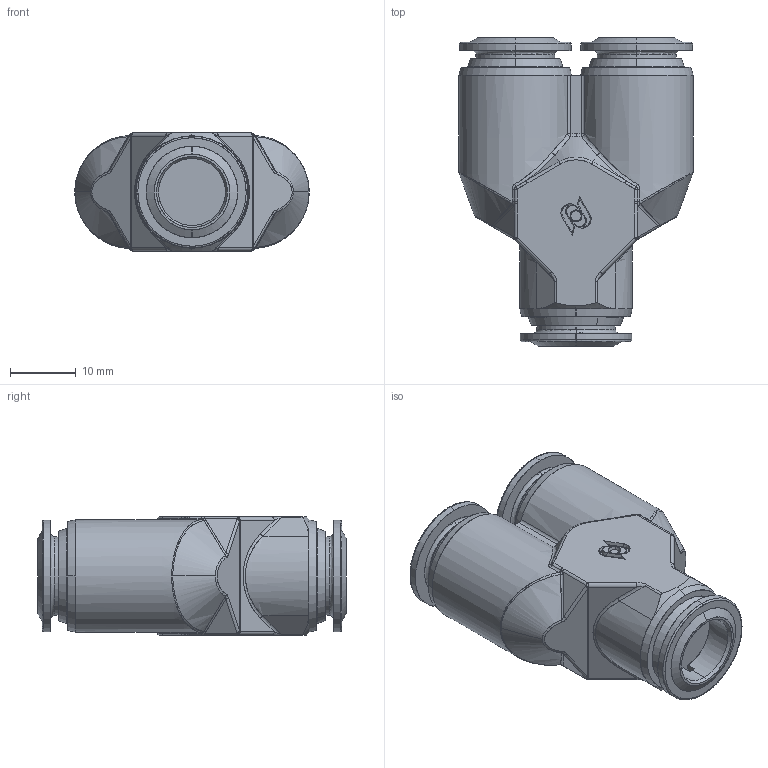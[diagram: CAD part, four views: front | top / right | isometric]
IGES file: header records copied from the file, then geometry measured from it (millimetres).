
Start section: SolidWorks IGES file using analytic representation for surfaces
Global section: file name: K:\Disegni Esecutivi\Serie 57000\ASSIEMI_57000\57310\ASSIEMI_PIENI_57310\5731000008.IGS; native system: SolidWorks 2008; preprocessor: SolidWorks 2008; author: cad02; date: 080212.105826; units: millimetre
Bounding box: 35.7 x 47 x 18 mm (x, y, z)
Surface area: 5808 mm2 (no closed solid volume)
Topology: 0 solids, 0 shells, 310 faces, 3300 edges, 3292 vertices
Faces by surface type: bspline 180, revolution 130
